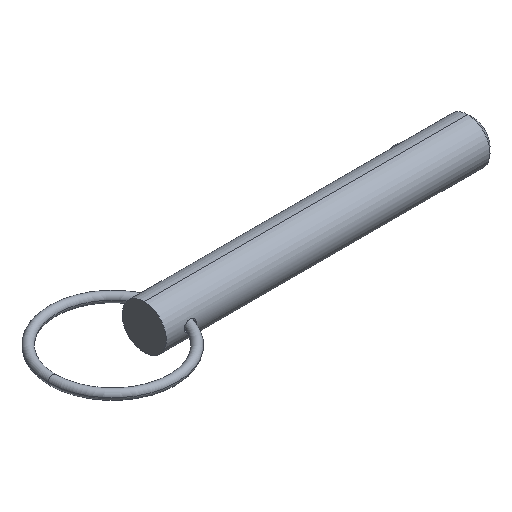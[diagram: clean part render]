
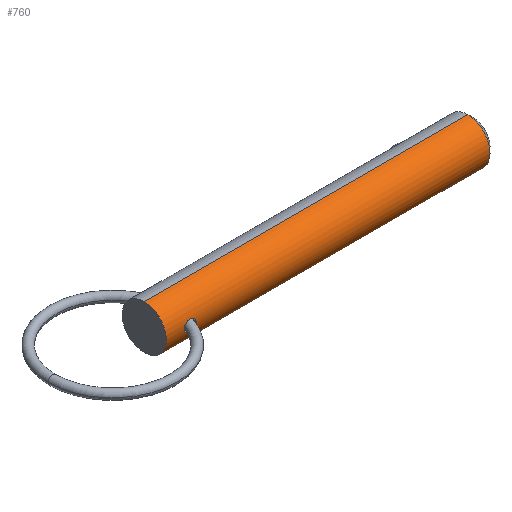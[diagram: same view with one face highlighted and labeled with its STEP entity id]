
A CAD part, isometric view. The second image highlights one B-rep face of the part: STEP entity #760.
In plain terms, the highlighted cylindrical face has radius 4.7 mm (diameter 9.4 mm), a partial arc.
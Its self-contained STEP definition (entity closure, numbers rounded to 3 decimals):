
#14 = LINE ( 'NONE', #442, #205 ) ;
#18 = CARTESIAN_POINT ( 'NONE',  ( 4.107, -4.644, -0.729 ) ) ;
#19 = AXIS2_PLACEMENT_3D ( 'NONE', #680, #625, #155 ) ;
#27 = ORIENTED_EDGE ( 'NONE', *, *, #845, .T. ) ;
#29 = CARTESIAN_POINT ( 'NONE',  ( 5.427, -4.556, -1.156 ) ) ;
#50 = CYLINDRICAL_SURFACE ( 'NONE', #285, 4.7 ) ;
#54 = CARTESIAN_POINT ( 'NONE',  ( 4.352, -4.607, 0.938 ) ) ;
#61 = CARTESIAN_POINT ( 'NONE',  ( 6.317, -4.691, 0.321 ) ) ;
#74 = EDGE_CURVE ( 'NONE', #97, #218, #853, .T. ) ;
#78 = CARTESIAN_POINT ( 'NONE',  ( 0., 0., 0. ) ) ;
#88 = CARTESIAN_POINT ( 'NONE',  ( 4.945, -4.552, -1.169 ) ) ;
#95 = CARTESIAN_POINT ( 'NONE',  ( 6.094, -4.642, -0.742 ) ) ;
#97 = VERTEX_POINT ( 'NONE', #472 ) ;
#101 = CARTESIAN_POINT ( 'NONE',  ( 6.185, -4.66, -0.612 ) ) ;
#103 = DIRECTION ( 'NONE',  ( 1., 0., 0. ) ) ;
#117 = EDGE_LOOP ( 'NONE', ( #342, #750 ) ) ;
#130 = CARTESIAN_POINT ( 'NONE',  ( 6.35, -4.7, 0. ) ) ;
#155 = DIRECTION ( 'NONE',  ( 0., 0., -1. ) ) ;
#156 = CARTESIAN_POINT ( 'NONE',  ( 3.818, -4.7, -0.08 ) ) ;
#163 = ORIENTED_EDGE ( 'NONE', *, *, #227, .F. ) ;
#179 = VERTEX_POINT ( 'NONE', #302 ) ;
#187 = CARTESIAN_POINT ( 'NONE',  ( 3.818, -4.7, 0. ) ) ;
#194 = CARTESIAN_POINT ( 'NONE',  ( 6.35, -4.7, 0.161 ) ) ;
#205 = VECTOR ( 'NONE', #103, 1000. ) ;
#212 = CARTESIAN_POINT ( 'NONE',  ( 5.266, -4.551, 1.173 ) ) ;
#218 = VERTEX_POINT ( 'NONE', #346 ) ;
#220 = CARTESIAN_POINT ( 'NONE',  ( 3.867, -4.69, -0.315 ) ) ;
#227 = EDGE_CURVE ( 'NONE', #293, #179, #14, .T. ) ;
#251 = DIRECTION ( 'NONE',  ( 0., 0., -1. ) ) ;
#260 = CARTESIAN_POINT ( 'NONE',  ( 5.861, -4.601, 0.96 ) ) ;
#275 = CARTESIAN_POINT ( 'NONE',  ( 6.193, -4.662, 0.614 ) ) ;
#276 = CARTESIAN_POINT ( 'NONE',  ( 6.223, -4.669, -0.542 ) ) ;
#285 = AXIS2_PLACEMENT_3D ( 'NONE', #78, #407, #251 ) ;
#286 = CARTESIAN_POINT ( 'NONE',  ( 4.005, -4.663, -0.605 ) ) ;
#292 = CARTESIAN_POINT ( 'NONE',  ( 3.818, -4.7, 0. ) ) ;
#293 = VERTEX_POINT ( 'NONE', #782 ) ;
#302 = CARTESIAN_POINT ( 'NONE',  ( 68.675, 0., 4.7 ) ) ;
#316 = CARTESIAN_POINT ( 'NONE',  ( 4.491, -4.588, 1.02 ) ) ;
#318 = CARTESIAN_POINT ( 'NONE',  ( 68.675, 0., -4.7 ) ) ;
#342 = ORIENTED_EDGE ( 'NONE', *, *, #698, .T. ) ;
#346 = CARTESIAN_POINT ( 'NONE',  ( 3.818, -4.7, 0. ) ) ;
#352 = CARTESIAN_POINT ( 'NONE',  ( 5.187, -4.55, 1.177 ) ) ;
#366 = EDGE_CURVE ( 'NONE', #179, #755, #809, .T. ) ;
#383 = DIRECTION ( 'NONE',  ( 1., 0., 0. ) ) ;
#386 = CARTESIAN_POINT ( 'NONE',  ( 4.108, -4.644, 0.73 ) ) ;
#396 = EDGE_CURVE ( 'NONE', #511, #755, #723, .T. ) ;
#407 = DIRECTION ( 'NONE',  ( 1., 0., 0. ) ) ;
#410 = CARTESIAN_POINT ( 'NONE',  ( 5.725, -4.583, 1.042 ) ) ;
#411 = CARTESIAN_POINT ( 'NONE',  ( 6.041, -4.631, -0.803 ) ) ;
#425 = CARTESIAN_POINT ( 'NONE',  ( 4.005, -4.663, 0.605 ) ) ;
#442 = CARTESIAN_POINT ( 'NONE',  ( 0., 0., 4.7 ) ) ;
#447 = AXIS2_PLACEMENT_3D ( 'NONE', #575, #580, #587 ) ;
#451 = CARTESIAN_POINT ( 'NONE',  ( 4.788, -4.561, 1.135 ) ) ;
#456 = FACE_OUTER_BOUND ( 'NONE', #686, .T. ) ;
#471 = CARTESIAN_POINT ( 'NONE',  ( 5.926, -4.611, 0.911 ) ) ;
#472 = CARTESIAN_POINT ( 'NONE',  ( 6.35, -4.7, 0. ) ) ;
#476 = CARTESIAN_POINT ( 'NONE',  ( 4.785, -4.561, -1.135 ) ) ;
#479 = CIRCLE ( 'NONE', #19, 4.7 ) ;
#481 = CARTESIAN_POINT ( 'NONE',  ( 4.947, -4.552, 1.169 ) ) ;
#483 = CARTESIAN_POINT ( 'NONE',  ( 6.318, -4.691, -0.32 ) ) ;
#488 = CARTESIAN_POINT ( 'NONE',  ( 3.859, -4.691, 0.32 ) ) ;
#508 = CARTESIAN_POINT ( 'NONE',  ( 0., 0., -4.7 ) ) ;
#511 = VERTEX_POINT ( 'NONE', #508 ) ;
#525 = FACE_BOUND ( 'NONE', #117, .T. ) ;
#542 = CARTESIAN_POINT ( 'NONE',  ( 6.1, -4.641, 0.749 ) ) ;
#551 = CARTESIAN_POINT ( 'NONE',  ( 6.35, -4.7, 0. ) ) ;
#553 = VECTOR ( 'NONE', #383, 1000. ) ;
#575 = CARTESIAN_POINT ( 'NONE',  ( 68.675, 0., 0. ) ) ;
#580 = DIRECTION ( 'NONE',  ( 1., 0., 0. ) ) ;
#587 = DIRECTION ( 'NONE',  ( 0., 0., -1. ) ) ;
#603 = CARTESIAN_POINT ( 'NONE',  ( 5.503, -4.562, 1.13 ) ) ;
#610 = CARTESIAN_POINT ( 'NONE',  ( 5.265, -4.55, -1.18 ) ) ;
#612 = ORIENTED_EDGE ( 'NONE', *, *, #366, .F. ) ;
#617 = CARTESIAN_POINT ( 'NONE',  ( 4.487, -4.589, -1.018 ) ) ;
#625 = DIRECTION ( 'NONE',  ( 1., 0., 0. ) ) ;
#627 = CARTESIAN_POINT ( 'NONE',  ( 5.727, -4.582, -1.05 ) ) ;
#658 = CARTESIAN_POINT ( 'NONE',  ( 0., 0., -4.7 ) ) ;
#680 = CARTESIAN_POINT ( 'NONE',  ( 0., 0., 0. ) ) ;
#686 = EDGE_LOOP ( 'NONE', ( #163, #27, #763, #612 ) ) ;
#693 = CARTESIAN_POINT ( 'NONE',  ( 6.35, -4.7, -0.161 ) ) ;
#698 = EDGE_CURVE ( 'NONE', #218, #97, #762, .T. ) ;
#713 = CARTESIAN_POINT ( 'NONE',  ( 5.654, -4.575, 1.076 ) ) ;
#723 = LINE ( 'NONE', #658, #553 ) ;
#740 = CARTESIAN_POINT ( 'NONE',  ( 4.349, -4.607, -0.937 ) ) ;
#749 = CARTESIAN_POINT ( 'NONE',  ( 3.829, -4.698, -0.161 ) ) ;
#750 = ORIENTED_EDGE ( 'NONE', *, *, #74, .T. ) ;
#755 = VERTEX_POINT ( 'NONE', #318 ) ;
#760 = ADVANCED_FACE ( 'NONE', ( #456, #525 ), #50, .T. ) ;
#762 = B_SPLINE_CURVE_WITH_KNOTS ( 'NONE', 3,
 ( #187, #808, #488, #425, #386, #54, #316, #451, #481, #352, #212, #844, #603, #713, #410, #260, #471, #542, #275, #61, #194, #130 ),
 .UNSPECIFIED., .F., .F.,
 ( 4, 2, 2, 2, 2, 2, 2, 2, 2, 2, 4 ),
 ( 0.001, 0.001, 0.002, 0.002, 0.003, 0.003, 0.003, 0.004, 0.004, 0.004, 0.005 ),
 .UNSPECIFIED. ) ;
#763 = ORIENTED_EDGE ( 'NONE', *, *, #396, .T. ) ;
#782 = CARTESIAN_POINT ( 'NONE',  ( 0., 0., 4.7 ) ) ;
#808 = CARTESIAN_POINT ( 'NONE',  ( 3.818, -4.7, 0.16 ) ) ;
#809 = CIRCLE ( 'NONE', #447, 4.7 ) ;
#810 = CARTESIAN_POINT ( 'NONE',  ( 5.867, -4.601, -0.966 ) ) ;
#814 = CARTESIAN_POINT ( 'NONE',  ( 3.895, -4.684, -0.39 ) ) ;
#844 = CARTESIAN_POINT ( 'NONE',  ( 5.424, -4.557, 1.149 ) ) ;
#845 = EDGE_CURVE ( 'NONE', #293, #511, #479, .T. ) ;
#853 = B_SPLINE_CURVE_WITH_KNOTS ( 'NONE', 3,
 ( #551, #693, #483, #276, #101, #95, #411, #810, #627, #29, #610, #88, #476, #617, #740, #18, #286, #814, #220, #749, #156, #292 ),
 .UNSPECIFIED., .F., .F.,
 ( 4, 2, 2, 2, 2, 2, 2, 2, 2, 2, 4 ),
 ( 0.005, 0.005, 0.005, 0.006, 0.006, 0.007, 0.007, 0.008, 0.008, 0.008, 0.009 ),
 .UNSPECIFIED. ) ;
